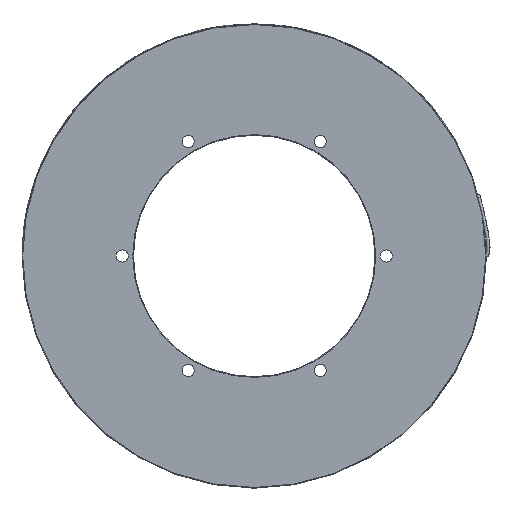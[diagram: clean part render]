
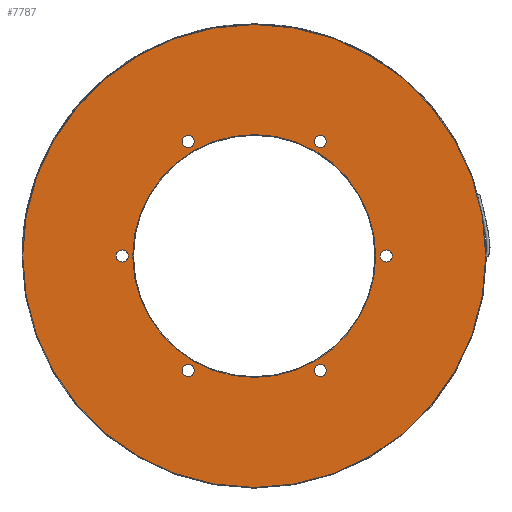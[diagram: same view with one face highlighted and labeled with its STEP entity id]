
A CAD part, left-side view. The second image highlights one B-rep face of the part: STEP entity #7787.
In plain terms, the highlighted planar face has unit normal (-1, 0, 0).
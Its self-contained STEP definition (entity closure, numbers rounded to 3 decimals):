
#63=FACE_BOUND('',#1623,.T.);
#64=FACE_BOUND('',#1624,.T.);
#65=FACE_BOUND('',#1625,.T.);
#66=FACE_BOUND('',#1626,.T.);
#67=FACE_BOUND('',#1627,.T.);
#68=FACE_BOUND('',#1628,.T.);
#69=FACE_BOUND('',#1629,.T.);
#820=PLANE('',#8353);
#1207=FACE_OUTER_BOUND('',#1622,.T.);
#1622=EDGE_LOOP('',(#5271,#5272));
#1623=EDGE_LOOP('',(#5273,#5274));
#1624=EDGE_LOOP('',(#5275,#5276));
#1625=EDGE_LOOP('',(#5277,#5278));
#1626=EDGE_LOOP('',(#5279,#5280));
#1627=EDGE_LOOP('',(#5281,#5282));
#1628=EDGE_LOOP('',(#5283,#5284));
#1629=EDGE_LOOP('',(#5285));
#2138=CIRCLE('',#8227,163.);
#2139=CIRCLE('',#8228,163.);
#2232=CIRCLE('',#8327,85.5);
#2235=CIRCLE('',#8332,4.25);
#2236=CIRCLE('',#8333,4.25);
#2237=CIRCLE('',#8335,4.25);
#2238=CIRCLE('',#8336,4.25);
#2239=CIRCLE('',#8338,4.25);
#2240=CIRCLE('',#8339,4.25);
#2241=CIRCLE('',#8341,4.25);
#2242=CIRCLE('',#8342,4.25);
#2243=CIRCLE('',#8344,4.25);
#2244=CIRCLE('',#8345,4.25);
#2245=CIRCLE('',#8347,4.25);
#2246=CIRCLE('',#8348,4.25);
#3028=VERTEX_POINT('',#12923);
#3029=VERTEX_POINT('',#12924);
#3122=VERTEX_POINT('',#13122);
#3125=VERTEX_POINT('',#13132);
#3126=VERTEX_POINT('',#13133);
#3127=VERTEX_POINT('',#13138);
#3128=VERTEX_POINT('',#13139);
#3129=VERTEX_POINT('',#13144);
#3130=VERTEX_POINT('',#13145);
#3131=VERTEX_POINT('',#13150);
#3132=VERTEX_POINT('',#13151);
#3133=VERTEX_POINT('',#13156);
#3134=VERTEX_POINT('',#13157);
#3135=VERTEX_POINT('',#13162);
#3136=VERTEX_POINT('',#13163);
#3859=EDGE_CURVE('',#3028,#3029,#2138,.T.);
#3860=EDGE_CURVE('',#3029,#3028,#2139,.T.);
#3959=EDGE_CURVE('',#3122,#3122,#2232,.T.);
#3963=EDGE_CURVE('',#3125,#3126,#2235,.T.);
#3964=EDGE_CURVE('',#3126,#3125,#2236,.T.);
#3966=EDGE_CURVE('',#3127,#3128,#2237,.T.);
#3967=EDGE_CURVE('',#3128,#3127,#2238,.T.);
#3969=EDGE_CURVE('',#3129,#3130,#2239,.T.);
#3970=EDGE_CURVE('',#3130,#3129,#2240,.T.);
#3972=EDGE_CURVE('',#3131,#3132,#2241,.T.);
#3973=EDGE_CURVE('',#3132,#3131,#2242,.T.);
#3975=EDGE_CURVE('',#3133,#3134,#2243,.T.);
#3976=EDGE_CURVE('',#3134,#3133,#2244,.T.);
#3978=EDGE_CURVE('',#3135,#3136,#2245,.T.);
#3979=EDGE_CURVE('',#3136,#3135,#2246,.T.);
#5271=ORIENTED_EDGE('',*,*,#3859,.T.);
#5272=ORIENTED_EDGE('',*,*,#3860,.T.);
#5273=ORIENTED_EDGE('',*,*,#3978,.T.);
#5274=ORIENTED_EDGE('',*,*,#3979,.T.);
#5275=ORIENTED_EDGE('',*,*,#3975,.T.);
#5276=ORIENTED_EDGE('',*,*,#3976,.T.);
#5277=ORIENTED_EDGE('',*,*,#3972,.T.);
#5278=ORIENTED_EDGE('',*,*,#3973,.T.);
#5279=ORIENTED_EDGE('',*,*,#3969,.T.);
#5280=ORIENTED_EDGE('',*,*,#3970,.T.);
#5281=ORIENTED_EDGE('',*,*,#3966,.T.);
#5282=ORIENTED_EDGE('',*,*,#3967,.T.);
#5283=ORIENTED_EDGE('',*,*,#3963,.T.);
#5284=ORIENTED_EDGE('',*,*,#3964,.T.);
#5285=ORIENTED_EDGE('',*,*,#3959,.F.);
#7787=ADVANCED_FACE('',(#1207,#63,#64,#65,#66,#67,#68,#69),#820,.T.);
#8227=AXIS2_PLACEMENT_3D('',#12925,#9567,#9568);
#8228=AXIS2_PLACEMENT_3D('',#12926,#9569,#9570);
#8327=AXIS2_PLACEMENT_3D('',#13124,#9773,#9774);
#8332=AXIS2_PLACEMENT_3D('',#13134,#9784,#9785);
#8333=AXIS2_PLACEMENT_3D('',#13135,#9786,#9787);
#8335=AXIS2_PLACEMENT_3D('',#13140,#9791,#9792);
#8336=AXIS2_PLACEMENT_3D('',#13141,#9793,#9794);
#8338=AXIS2_PLACEMENT_3D('',#13146,#9798,#9799);
#8339=AXIS2_PLACEMENT_3D('',#13147,#9800,#9801);
#8341=AXIS2_PLACEMENT_3D('',#13152,#9805,#9806);
#8342=AXIS2_PLACEMENT_3D('',#13153,#9807,#9808);
#8344=AXIS2_PLACEMENT_3D('',#13158,#9812,#9813);
#8345=AXIS2_PLACEMENT_3D('',#13159,#9814,#9815);
#8347=AXIS2_PLACEMENT_3D('',#13164,#9819,#9820);
#8348=AXIS2_PLACEMENT_3D('',#13165,#9821,#9822);
#8353=AXIS2_PLACEMENT_3D('',#13173,#9832,#9833);
#9567=DIRECTION('center_axis',(-1.,0.,0.));
#9568=DIRECTION('ref_axis',(0.,0.,1.));
#9569=DIRECTION('center_axis',(-1.,0.,0.));
#9570=DIRECTION('ref_axis',(0.,0.,1.));
#9773=DIRECTION('center_axis',(-1.,0.,0.));
#9774=DIRECTION('ref_axis',(0.,0.,
-1.));
#9784=DIRECTION('center_axis',(1.,0.,0.));
#9785=DIRECTION('ref_axis',(0.,-1.,0.));
#9786=DIRECTION('center_axis',(1.,0.,0.));
#9787=DIRECTION('ref_axis',(0.,-1.,0.));
#9791=DIRECTION('center_axis',(1.,0.,0.));
#9792=DIRECTION('ref_axis',(0.,-1.,0.));
#9793=DIRECTION('center_axis',(1.,0.,0.));
#9794=DIRECTION('ref_axis',(0.,-1.,0.));
#9798=DIRECTION('center_axis',(1.,0.,0.));
#9799=DIRECTION('ref_axis',(0.,-1.,0.));
#9800=DIRECTION('center_axis',(1.,0.,0.));
#9801=DIRECTION('ref_axis',(0.,-1.,0.));
#9805=DIRECTION('center_axis',(1.,0.,0.));
#9806=DIRECTION('ref_axis',(0.,-1.,0.));
#9807=DIRECTION('center_axis',(1.,0.,0.));
#9808=DIRECTION('ref_axis',(0.,-1.,0.));
#9812=DIRECTION('center_axis',(1.,0.,0.));
#9813=DIRECTION('ref_axis',(0.,-1.,0.));
#9814=DIRECTION('center_axis',(1.,0.,0.));
#9815=DIRECTION('ref_axis',(0.,-1.,0.));
#9819=DIRECTION('center_axis',(1.,0.,0.));
#9820=DIRECTION('ref_axis',(0.,-1.,0.));
#9821=DIRECTION('center_axis',(1.,0.,0.));
#9822=DIRECTION('ref_axis',(0.,-1.,0.));
#9832=DIRECTION('center_axis',(-1.,0.,0.));
#9833=DIRECTION('ref_axis',(0.,-1.,0.));
#12923=CARTESIAN_POINT('',(-33.8,0.,163.));
#12924=CARTESIAN_POINT('',(-33.8,0.,-163.));
#12925=CARTESIAN_POINT('Origin',(-33.8,0.,0.));
#12926=CARTESIAN_POINT('Origin',(-33.8,0.,0.));
#13122=CARTESIAN_POINT('',(-33.8,0.,85.5));
#13124=CARTESIAN_POINT('Origin',(-33.8,0.,0.));
#13132=CARTESIAN_POINT('',(-33.8,-50.75,-80.54));
#13133=CARTESIAN_POINT('',(-33.8,-42.25,-80.54));
#13134=CARTESIAN_POINT('Origin',(-33.8,-46.5,-80.54));
#13135=CARTESIAN_POINT('Origin',(-33.8,-46.5,-80.54));
#13138=CARTESIAN_POINT('',(-33.8,88.75,0.));
#13139=CARTESIAN_POINT('',(-33.8,97.25,0.));
#13140=CARTESIAN_POINT('Origin',(-33.8,93.,0.));
#13141=CARTESIAN_POINT('Origin',(-33.8,93.,0.));
#13144=CARTESIAN_POINT('',(-33.8,-50.75,80.54));
#13145=CARTESIAN_POINT('',(-33.8,-42.25,80.54));
#13146=CARTESIAN_POINT('Origin',(-33.8,-46.5,80.54));
#13147=CARTESIAN_POINT('Origin',(-33.8,-46.5,80.54));
#13150=CARTESIAN_POINT('',(-33.8,-97.25,0.));
#13151=CARTESIAN_POINT('',(-33.8,-88.75,0.));
#13152=CARTESIAN_POINT('Origin',(-33.8,-93.,0.));
#13153=CARTESIAN_POINT('Origin',(-33.8,-93.,0.));
#13156=CARTESIAN_POINT('',(-33.8,42.25,80.54));
#13157=CARTESIAN_POINT('',(-33.8,50.75,80.54));
#13158=CARTESIAN_POINT('Origin',(-33.8,46.5,80.54));
#13159=CARTESIAN_POINT('Origin',(-33.8,46.5,80.54));
#13162=CARTESIAN_POINT('',(-33.8,42.25,-80.54));
#13163=CARTESIAN_POINT('',(-33.8,50.75,-80.54));
#13164=CARTESIAN_POINT('Origin',(-33.8,46.5,-80.54));
#13165=CARTESIAN_POINT('Origin',(-33.8,46.5,-80.54));
#13173=CARTESIAN_POINT('Origin',(-33.8,0.,124.));
